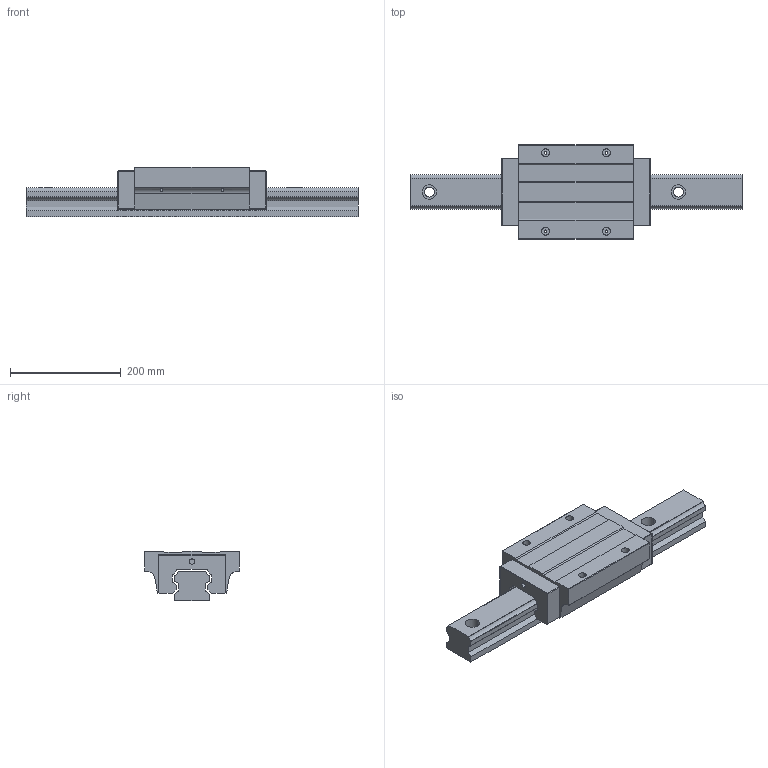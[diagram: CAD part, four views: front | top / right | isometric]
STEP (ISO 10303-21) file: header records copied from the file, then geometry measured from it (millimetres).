
FILE_DESCRIPTION (( 'STEP AP203' ), '1' );
FILE_NAME ('TRH65FE-ZN.STEP', '2023-02-07T03:08:34', ( '' ), ( '' ), 'SwSTEP 2.0', 'SolidWorks 2019', '' );
FILE_SCHEMA (( 'CONFIG_CONTROL_DESIGN' ));
Length unit declared in the file: millimetre
Products named in the file (1): TRH65FE-ZN
Bounding box: 600 x 170 x 90 mm (x, y, z)
Volume: 3780646.1 mm3; surface area: 330966.4 mm2
Topology: 2 solids, 2 shells, 148 faces, 378 edges, 240 vertices
Faces by surface type: plane 76, cylinder 68, sphere 4
Entity records: 4948 total; most frequent: CARTESIAN_POINT 1196, DIRECTION 782, ORIENTED_EDGE 748, EDGE_CURVE 374, AXIS2_PLACEMENT_3D 273, VERTEX_POINT 240, LINE 236, VECTOR 236
